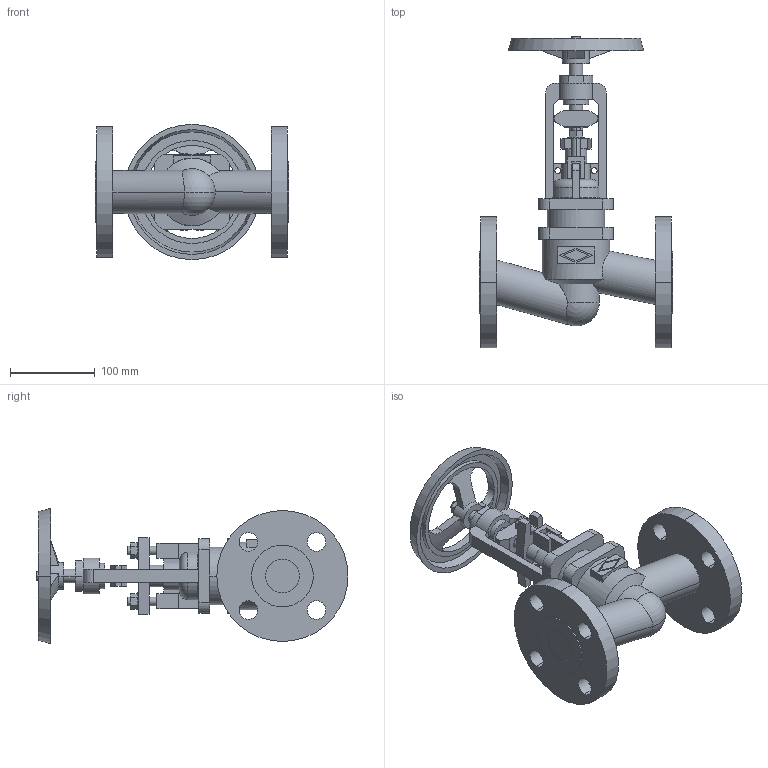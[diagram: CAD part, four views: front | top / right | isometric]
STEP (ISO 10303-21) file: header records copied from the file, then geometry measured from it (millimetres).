
FILE_DESCRIPTION(('OneSpaceDesigner STEP Export'),'2;1');
FILE_NAME('c000004214.stp','2010-04-30T 9:45:06',(''),(''),'OneSpace Designer STEP processor for AP214 (Solid Model)','OneSpace Modeling 15.50B 03-Nov-2007 (C) CoCreate Software GmbH','');
FILE_SCHEMA(('AUTOMOTIVE_DESIGN { 1 0 10303 214 1 1 1 1 }'));
Length unit declared in the file: millimetre
Products named in the file (1): 1
Bounding box: 229 x 368.9 x 160 mm (x, y, z)
Volume: 1978334.4 mm3; surface area: 265559.7 mm2
Topology: 1 solids, 1 shells, 289 faces, 758 edges, 497 vertices
Faces by surface type: plane 148, cylinder 111, cone 20, torus 8, sphere 2
Entity records: 11499 total; most frequent: CARTESIAN_POINT 2429, ORIENTED_EDGE 1512, DIRECTION 1251, EDGE_CURVE 756, VERTEX_POINT 497, VECTOR 427, LINE 427, AXIS2_PLACEMENT_3D 412
